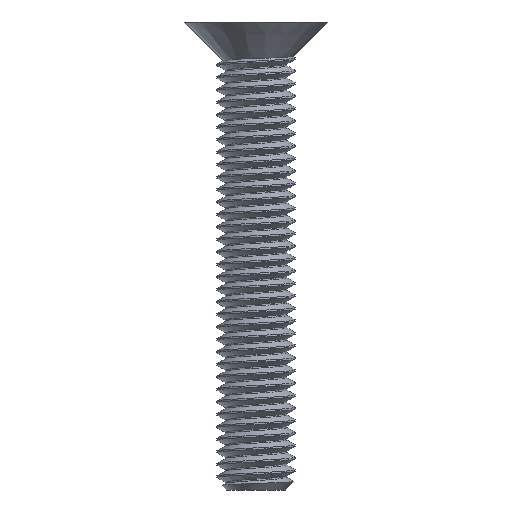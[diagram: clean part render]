
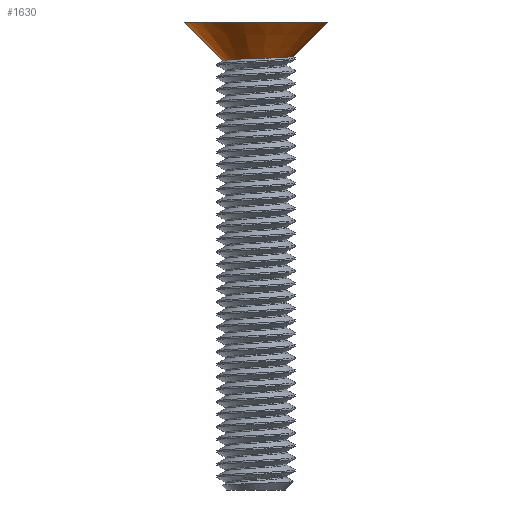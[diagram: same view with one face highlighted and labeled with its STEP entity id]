
A CAD part, left-side view. The second image highlights one B-rep face of the part: STEP entity #1630.
In plain terms, the highlighted conical face has half-angle 45 degrees and reference radius 2.5 mm.
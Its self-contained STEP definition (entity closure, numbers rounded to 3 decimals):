
#26 = CARTESIAN_POINT ( 'NONE',  ( -0.147, -2.368, 0.268 ) ) ;
#68 = CARTESIAN_POINT ( 'NONE',  ( -2.013, -1.094, 0.187 ) ) ;
#111 = CARTESIAN_POINT ( 'NONE',  ( -0.296, 2.115, 0.031 ) ) ;
#205 = CARTESIAN_POINT ( 'NONE',  ( -2.127, -0.823, 0.176 ) ) ;
#458 = VECTOR ( 'NONE', #2392, 1000. ) ;
#586 = LINE ( 'NONE', #6233, #2314 ) ;
#692 = CARTESIAN_POINT ( 'NONE',  ( 0., -4.6, 2.5 ) ) ;
#750 = CARTESIAN_POINT ( 'NONE',  ( -2.246, -0.247, 0.155 ) ) ;
#797 = EDGE_CURVE ( 'NONE', #2704, #2701, #586, .T. ) ;
#893 = CARTESIAN_POINT ( 'NONE',  ( -2.028, 0.896, 0.113 ) ) ;
#1119 = ORIENTED_EDGE ( 'NONE', *, *, #4995, .F. ) ;
#1184 = EDGE_CURVE ( 'NONE', #4605, #2704, #6830, .T. ) ;
#1221 = EDGE_LOOP ( 'NONE', ( #1119, #8266, #7686, #3416 ) ) ;
#1308 = CARTESIAN_POINT ( 'NONE',  ( 0., 2.12, 0.02 ) ) ;
#1405 = VERTEX_POINT ( 'NONE', #7397 ) ;
#1511 = LINE ( 'NONE', #8669, #458 ) ;
#1531 = CARTESIAN_POINT ( 'NONE',  ( -1.703, 1.387, 0.091 ) ) ;
#1582 = CARTESIAN_POINT ( 'NONE',  ( -1.378, 1.689, 0.075 ) ) ;
#1630 = ADVANCED_FACE ( 'NONE', ( #6252 ), #7077, .T. ) ;
#2127 = DIRECTION ( 'NONE',  ( 0., -1., 0. ) ) ;
#2135 = CARTESIAN_POINT ( 'NONE',  ( -1.127, -2.063, 0.233 ) ) ;
#2179 = CARTESIAN_POINT ( 'NONE',  ( -0.581, -2.285, 0.253 ) ) ;
#2273 = CARTESIAN_POINT ( 'NONE',  ( -0.585, 2.065, 0.042 ) ) ;
#2293 = CARTESIAN_POINT ( 'NONE',  ( 0., 2.12, 0.02 ) ) ;
#2314 = VECTOR ( 'NONE', #7051, 1000. ) ;
#2321 = CARTESIAN_POINT ( 'NONE',  ( -0.727, 2.026, 0.047 ) ) ;
#2392 = DIRECTION ( 'NONE',  ( 0., 0.707, 0.707 ) ) ;
#2701 = VERTEX_POINT ( 'NONE', #692 ) ;
#2704 = VERTEX_POINT ( 'NONE', #5692 ) ;
#2733 = DIRECTION ( 'NONE',  ( 0., 0., 1. ) ) ;
#2822 = CARTESIAN_POINT ( 'NONE',  ( -0.147, 2.125, 0.025 ) ) ;
#2865 = CARTESIAN_POINT ( 'NONE',  ( -0.295, -2.35, 0.263 ) ) ;
#2911 = CARTESIAN_POINT ( 'NONE',  ( -2.171, -0.683, 0.171 ) ) ;
#3329 = DIRECTION ( 'NONE',  ( 0., -1., 0. ) ) ;
#3416 = ORIENTED_EDGE ( 'NONE', *, *, #6072, .F. ) ;
#3599 = CARTESIAN_POINT ( 'NONE',  ( -2.194, 0.489, 0.129 ) ) ;
#3644 = CARTESIAN_POINT ( 'NONE',  ( 0., -2.373, 0.273 ) ) ;
#3692 = CARTESIAN_POINT ( 'NONE',  ( -1.686, -1.582, 0.207 ) ) ;
#4281 = CARTESIAN_POINT ( 'NONE',  ( -1.942, -1.226, 0.192 ) ) ;
#4605 = VERTEX_POINT ( 'NONE', #2293 ) ;
#4995 = EDGE_CURVE ( 'NONE', #4605, #1405, #1511, .T. ) ;
#5060 = CARTESIAN_POINT ( 'NONE',  ( -0.72, -2.24, 0.248 ) ) ;
#5110 = CARTESIAN_POINT ( 'NONE',  ( -1.779, -1.469, 0.202 ) ) ;
#5617 = CARTESIAN_POINT ( 'NONE',  ( -1.494, 1.595, 0.08 ) ) ;
#5692 = CARTESIAN_POINT ( 'NONE',  ( 0., -2.373, 0.273 ) ) ;
#5803 = CARTESIAN_POINT ( 'NONE',  ( -1.959, 1.028, 0.107 ) ) ;
#6072 = EDGE_CURVE ( 'NONE', #1405, #2701, #8159, .T. ) ;
#6211 = AXIS2_PLACEMENT_3D ( 'NONE', #7580, #2733, #2127 ) ;
#6233 = CARTESIAN_POINT ( 'NONE',  ( 0., -2.5, 0.4 ) ) ;
#6252 = FACE_OUTER_BOUND ( 'NONE', #1221, .T. ) ;
#6307 = CARTESIAN_POINT ( 'NONE',  ( -1.795, 1.273, 0.096 ) ) ;
#6391 = CARTESIAN_POINT ( 'NONE',  ( -1.133, 1.85, 0.064 ) ) ;
#6484 = CARTESIAN_POINT ( 'NONE',  ( -1.373, -1.896, 0.222 ) ) ;
#6830 = B_SPLINE_CURVE_WITH_KNOTS ( 'NONE', 3,
 ( #1308, #2822, #111, #2273, #2321, #8551, #6391, #1582, #5617, #1531, #6307, #5803, #893, #3599, #7083, #750, #8411, #2911, #205, #68, #4281, #5110, #3692, #6484, #2135, #5060, #2179, #2865, #26, #3644 ),
 .UNSPECIFIED., .F., .F.,
 ( 4, 2, 2, 2, 2, 2, 2, 2, 2, 2, 2, 2, 2, 2, 4 ),
 ( 0.001, 0.001, 0.001, 0.002, 0.002, 0.003, 0.003, 0.004, 0.004, 0.005, 0.005, 0.006, 0.007, 0.007, 0.008 ),
 .UNSPECIFIED. ) ;
#7051 = DIRECTION ( 'NONE',  ( 0., -0.707, 0.707 ) ) ;
#7077 = CONICAL_SURFACE ( 'NONE', #6211, 2.5, 0.785 ) ;
#7083 = CARTESIAN_POINT ( 'NONE',  ( -2.251, 0.193, 0.14 ) ) ;
#7397 = CARTESIAN_POINT ( 'NONE',  ( 0., 4.6, 2.5 ) ) ;
#7580 = CARTESIAN_POINT ( 'NONE',  ( 0., 0., 0.4 ) ) ;
#7683 = DIRECTION ( 'NONE',  ( 0., 0., 1. ) ) ;
#7686 = ORIENTED_EDGE ( 'NONE', *, *, #797, .T. ) ;
#8159 = CIRCLE ( 'NONE', #8760, 4.6 ) ;
#8266 = ORIENTED_EDGE ( 'NONE', *, *, #1184, .T. ) ;
#8279 = CARTESIAN_POINT ( 'NONE',  ( 0., 0., 2.5 ) ) ;
#8411 = CARTESIAN_POINT ( 'NONE',  ( -2.23, -0.395, 0.16 ) ) ;
#8551 = CARTESIAN_POINT ( 'NONE',  ( -1.003, 1.917, 0.059 ) ) ;
#8669 = CARTESIAN_POINT ( 'NONE',  ( 0., 2.5, 0.4 ) ) ;
#8760 = AXIS2_PLACEMENT_3D ( 'NONE', #8279, #7683, #3329 ) ;
